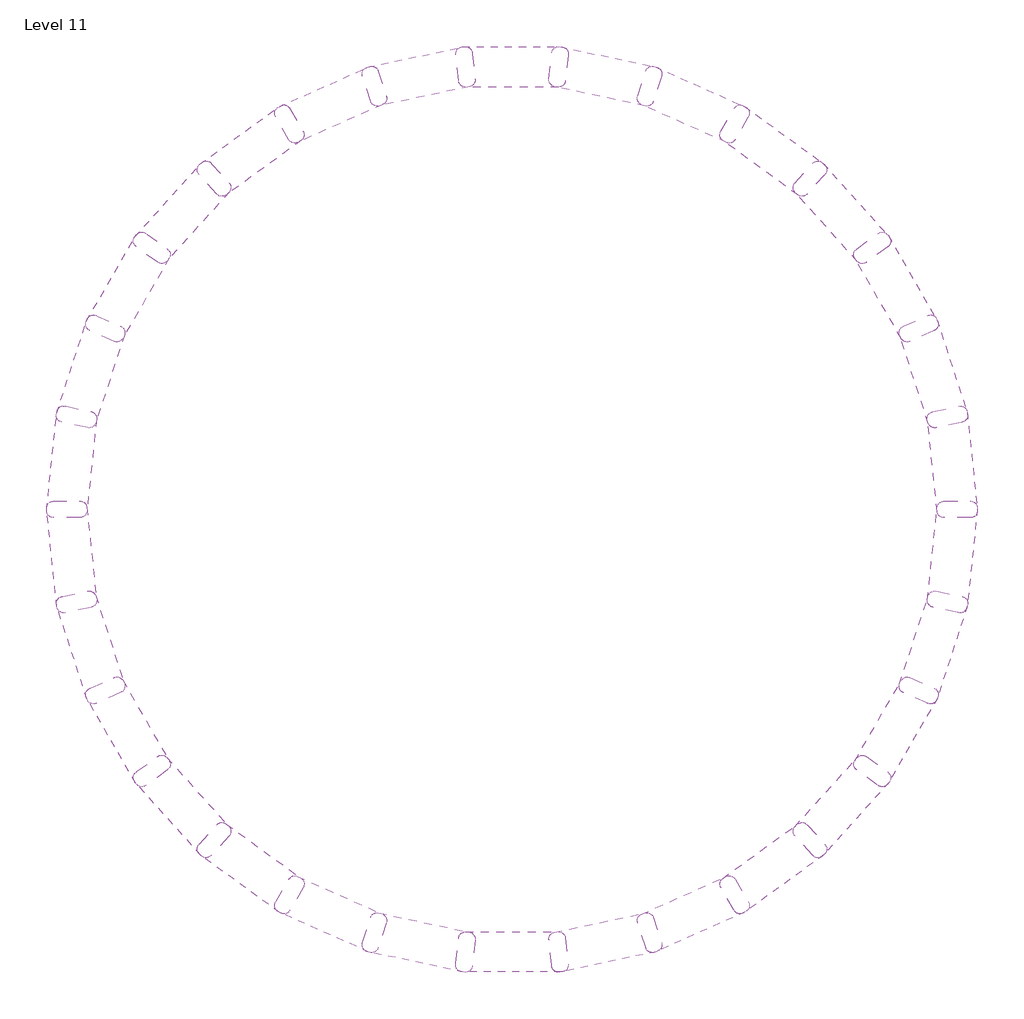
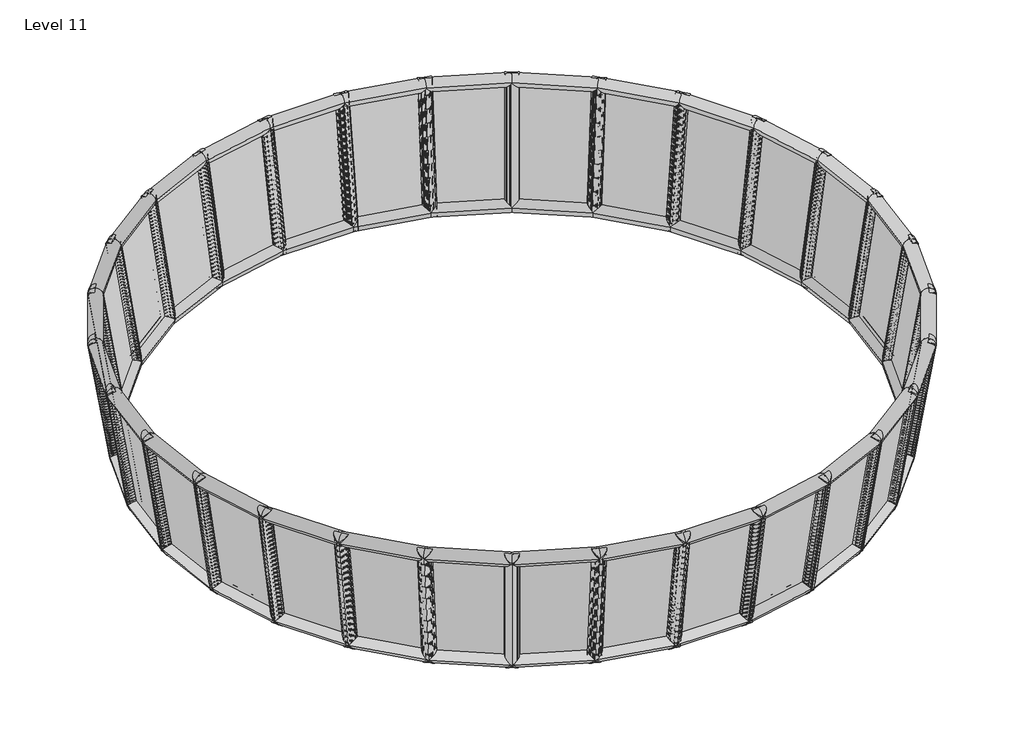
# One storey: 30 plates.
"""IFC4 building model written with IfcOpenShell, lengths in millimetres."""

from ifc_helpers import new_model, si_unit, origin, place, context, project, spatial, transform, mapped, element, save
from components import curtainpanel_curtainpanel_8103cddd

model = new_model("IFC4")

# Units and contexts
model_context = context("Model", 3, world=origin())
ifc_project = project(units=[si_unit("LENGTHUNIT", "METRE", prefix="MILLI")], contexts=[model_context])

# Site, building, storey
site = spatial("IfcSite", under=ifc_project)
building = spatial("IfcBuilding", under=site)
storey = spatial("IfcBuildingStorey", under=building, Name="Level 11", Elevation=40000.0)

# Plates
placement = place(None, origin())
curtainpanel_curtainpanel_shape = curtainpanel_curtainpanel_8103cddd(model_context)
element("IfcPlate", 1, ObjectType="CurtainPanel : CurtainPanel", at=placement, inside=storey, context=model_context, shape_type="MappedRepresentation", body=[
    mapped(curtainpanel_curtainpanel_shape, transform((12611.7205794, -2375.9869452, 51575.5731368), x_axis=(-0.136437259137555, 0.9656984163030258, -0.22093311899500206), y_axis=(-0.12722094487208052, -0.23825218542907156, -0.962834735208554), z_axis=(-0.9824457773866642, -0.10325921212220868, 0.15536354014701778))),
])
element("IfcPlate", 2, ObjectType="CurtainPanel : CurtainPanel", at=placement, inside=storey, context=model_context, shape_type="MappedRepresentation", body=[
    mapped(curtainpanel_curtainpanel_shape, transform((12764.7631899, 356.5857562, 51575.5731368), x_axis=(-0.334235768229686, 0.9162286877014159, -0.22093311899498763), y_axis=(-0.07490544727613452, -0.2594965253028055, -0.9628347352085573), z_axis=(-0.9395081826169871, -0.3052647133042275, 0.15536354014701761))),
])
element("IfcPlate", 3, ObjectType="CurtainPanel : CurtainPanel", at=placement, inside=storey, context=model_context, shape_type="MappedRepresentation", body=[
    mapped(curtainpanel_curtainpanel_shape, transform((12346.3276415, 3061.2645359, 51575.5731368), x_axis=(-0.5174265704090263, 0.8267153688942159, -0.2209331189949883), y_axis=(-0.01931622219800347, -0.26939962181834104, -0.9628347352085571), z_axis=(-0.8555095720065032, -0.49392868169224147, 0.15536354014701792))),
])
element("IfcPlate", 4, ObjectType="CurtainPanel : CurtainPanel", at=placement, inside=storey, context=model_context, shape_type="MappedRepresentation", body=[
    mapped(curtainpanel_curtainpanel_shape, transform((11374.7015757, 5619.8419526, 51575.5731368), x_axis=(-0.6780033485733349, 0.7010706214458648, -0.22093311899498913), y_axis=(0.037117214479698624, -0.26752866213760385, -0.962834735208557), z_axis=(-0.7341210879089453, -0.6610055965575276, 0.15536354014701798))),
])
element("IfcPlate", 5, ObjectType="CurtainPanel : CurtainPanel", at=placement, inside=storey, context=model_context, shape_type="MappedRepresentation", body=[
    mapped(curtainpanel_curtainpanel_shape, transform((9892.3497137, 7920.4958958, 51575.5731368), x_axis=(-0.8089481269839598, 0.5447857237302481, -0.22093311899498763), y_axis=(0.09192845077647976, -0.2539654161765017, -0.9628347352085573), z_axis=(-0.5806479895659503, -0.7991933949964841, 0.15536354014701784))),
])
element("IfcPlate", 6, ObjectType="CurtainPanel : CurtainPanel", at=placement, inside=storey, context=model_context, shape_type="MappedRepresentation", body=[
    mapped(curtainpanel_curtainpanel_shape, transform((7964.0579452, 9862.6767485, 51575.5731368), x_axis=(-0.9045379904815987, 0.36469107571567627, -0.22093311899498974), y_axis=(0.14272197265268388, -0.22930266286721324, -0.9628347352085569), z_axis=(-0.40179778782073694, -0.9024526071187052, 0.1553635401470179))),
])
element("IfcPlate", 7, ObjectType="CurtainPanel : CurtainPanel", at=placement, inside=storey, context=model_context, shape_type="MappedRepresentation", body=[
    mapped(curtainpanel_curtainpanel_shape, transform((5674.1018734, 11361.5018878, 51575.5731368), x_axis=(-0.9605952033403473, 0.16865767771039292, -0.2209331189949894), y_axis=(0.18727785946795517, -0.19461828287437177, -0.9628347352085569), z_axis=(-0.20538709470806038, -0.9662703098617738, 0.15536354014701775))),
])
element("IfcPlate", 8, ObjectType="CurtainPanel : CurtainPanel", at=placement, inside=storey, context=model_context, shape_type="MappedRepresentation", body=[
    mapped(curtainpanel_curtainpanel_shape, transform((3122.563567, 12351.4654629, 51575.5731368), x_axis=(-0.9746697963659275, -0.034746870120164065, -0.22093311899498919), y_axis=(0.2236488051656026, -0.15142815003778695, -0.9628347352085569), z_axis=(0.0, -0.987857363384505, 0.15536354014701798))),
])
element("IfcPlate", 9, ObjectType="CurtainPanel : CurtainPanel", at=placement, inside=storey, context=model_context, shape_type="MappedRepresentation", body=[
    mapped(curtainpanel_curtainpanel_shape, transform((420.9574936, 12789.3013152, 51575.5731368), x_axis=(-0.9461466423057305, -0.23663281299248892, -0.22093311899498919), y_axis=(0.2502452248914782, -0.10161988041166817, -0.9628347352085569), z_axis=(0.20538709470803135, -0.9662703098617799, 0.15536354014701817))),
])
element("IfcPlate", 10, ObjectType="CurtainPanel : CurtainPanel", at=placement, inside=storey, context=model_context, shape_type="MappedRepresentation", body=[
    mapped(curtainpanel_curtainpanel_shape, transform((-2312.6431975, 12655.8739171, 51575.5731368), x_axis=(-0.8762723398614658, -0.428176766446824, -0.22093311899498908), y_axis=(0.26590472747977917, -0.04737033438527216, -0.9628347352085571), z_axis=(0.4017977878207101, -0.9024526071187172, 0.15536354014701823))),
])
element("IfcPlate", 11, ObjectType="CurtainPanel : CurtainPanel", at=placement, inside=storey, context=model_context, shape_type="MappedRepresentation", body=[
    mapped(curtainpanel_curtainpanel_shape, transform((-7401.7657213, 10723.2671238, 51575.5731368), x_axis=(-0.6263594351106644, -0.7475710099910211, -0.22093311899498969), y_axis=(0.2621833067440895, 0.06487824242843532, -0.9628347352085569), z_axis=(0.7341210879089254, -0.6610055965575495, 0.15536354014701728))),
])
element("IfcPlate", 12, ObjectType="CurtainPanel : CurtainPanel", at=placement, inside=storey, context=model_context, shape_type="MappedRepresentation", body=[
    mapped(curtainpanel_curtainpanel_shape, transform((-11264.8484869, 6887.8103549, 51575.5731368), x_axis=(-0.2681432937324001, -0.9377034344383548, -0.2209331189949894), y_axis=(0.21312801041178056, 0.1659087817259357, -0.9628347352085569), z_axis=(0.9395081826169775, -0.3052647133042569, 0.1553635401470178))),
])
element("IfcPlate", 13, ObjectType="CurtainPanel : CurtainPanel", at=placement, inside=storey, context=model_context, shape_type="MappedRepresentation", body=[
    mapped(curtainpanel_curtainpanel_shape, transform((-4958.7670389, 11957.014686, 51575.5731368), x_axis=(-0.7681007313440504, -0.6010073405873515, -0.22093311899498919), y_axis=(0.26994291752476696, 0.00894952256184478, -0.9628347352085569), z_axis=(0.580647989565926, -0.7991933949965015, 0.15536354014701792))),
])
element("IfcPlate", 14, ObjectType="CurtainPanel : CurtainPanel", at=placement, inside=storey, context=model_context, shape_type="MappedRepresentation", body=[
    mapped(curtainpanel_curtainpanel_shape, transform((-9534.8684794, 9008.5519193, 51575.5731368), x_axis=(-0.4572432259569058, -0.8614622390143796, -0.22093311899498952), y_axis=(0.24296502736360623, 0.11797147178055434, -0.9628347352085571), z_axis=(0.8555095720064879, -0.4939286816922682, 0.15536354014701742))),
])
element("IfcPlate", 15, ObjectType="CurtainPanel : CurtainPanel", at=placement, inside=storey, context=model_context, shape_type="MappedRepresentation", body=[
    mapped(curtainpanel_curtainpanel_shape, transform((-12516.0973161, 4453.7290135, 51575.5731368), x_axis=(-0.06732421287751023, -0.9729624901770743, -0.22093311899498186), y_axis=(0.17397627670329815, 0.20659508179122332, -0.9628347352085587), z_axis=(0.9824457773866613, -0.10325921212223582, 0.15536354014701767))),
])
element("IfcPlate", 16, ObjectType="CurtainPanel : CurtainPanel", at=placement, inside=storey, context=model_context, shape_type="MappedRepresentation", body=[
    mapped(curtainpanel_curtainpanel_shape, transform((-13233.929389, 1812.6889297, 51575.5731368), x_axis=(0.13643725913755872, -0.9656984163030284, -0.22093311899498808), y_axis=(0.12722094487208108, 0.23825218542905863, -0.9628347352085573), z_axis=(0.9824457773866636, 0.10325921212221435, 0.15536354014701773))),
])
element("IfcPlate", 17, ObjectType="CurtainPanel : CurtainPanel", at=placement, inside=storey, context=model_context, shape_type="MappedRepresentation", body=[
    mapped(curtainpanel_curtainpanel_shape, transform((-13386.9719995, -919.8837717, 51575.5731368), x_axis=(0.33423576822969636, -0.9162286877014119, -0.2209331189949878), y_axis=(0.07490544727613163, 0.2594965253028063, -0.9628347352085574), z_axis=(0.9395081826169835, 0.30526471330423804, 0.15536354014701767))),
])
element("IfcPlate", 18, ObjectType="CurtainPanel : CurtainPanel", at=placement, inside=storey, context=model_context, shape_type="MappedRepresentation", body=[
    mapped(curtainpanel_curtainpanel_shape, transform((-12968.5364512, -3624.5625513, 51575.5731368), x_axis=(0.5174265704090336, -0.8267153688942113, -0.22093311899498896), y_axis=(0.019316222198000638, 0.2693996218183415, -0.9628347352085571), z_axis=(0.8555095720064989, 0.4939286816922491, 0.15536354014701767))),
])
element("IfcPlate", 19, ObjectType="CurtainPanel : CurtainPanel", at=placement, inside=storey, context=model_context, shape_type="MappedRepresentation", body=[
    mapped(curtainpanel_curtainpanel_shape, transform((-11996.9103853, -6183.139968, 51575.5731368), x_axis=(0.678003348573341, -0.7010706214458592, -0.22093311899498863), y_axis=(-0.037117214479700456, 0.26752866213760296, -0.9628347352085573), z_axis=(0.7341210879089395, 0.661005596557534, 0.15536354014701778))),
])
element("IfcPlate", 20, ObjectType="CurtainPanel : CurtainPanel", at=placement, inside=storey, context=model_context, shape_type="MappedRepresentation", body=[
    mapped(curtainpanel_curtainpanel_shape, transform((-10514.5585234, -8483.7939112, 51575.5731368), x_axis=(0.8089481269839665, -0.544785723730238, -0.2209331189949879), y_axis=(-0.0919284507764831, 0.2539654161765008, -0.9628347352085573), z_axis=(0.5806479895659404, 0.7991933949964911, 0.15536354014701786))),
])
element("IfcPlate", 21, ObjectType="CurtainPanel : CurtainPanel", at=placement, inside=storey, context=model_context, shape_type="MappedRepresentation", body=[
    mapped(curtainpanel_curtainpanel_shape, transform((-8586.2667548, -10425.9747639, 51575.5731368), x_axis=(0.9045379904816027, -0.3646910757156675, -0.2209331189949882), y_axis=(-0.14272197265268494, 0.229302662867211, -0.9628347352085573), z_axis=(0.4017977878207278, 0.9024526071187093, 0.15536354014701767))),
])
element("IfcPlate", 22, ObjectType="CurtainPanel : CurtainPanel", at=placement, inside=storey, context=model_context, shape_type="MappedRepresentation", body=[
    mapped(curtainpanel_curtainpanel_shape, transform((-6296.310683, -11924.7999032, 51575.5731368), x_axis=(0.9605952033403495, -0.16865767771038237, -0.2209331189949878), y_axis=(-0.1872778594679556, 0.19461828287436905, -0.9628347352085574), z_axis=(0.20538709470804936, 0.9662703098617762, 0.15536354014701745))),
])
element("IfcPlate", 23, ObjectType="CurtainPanel : CurtainPanel", at=placement, inside=storey, context=model_context, shape_type="MappedRepresentation", body=[
    mapped(curtainpanel_curtainpanel_shape, transform((-3744.7723766, -12914.7634783, 51575.5731368), x_axis=(0.9746697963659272, 0.034746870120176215, -0.2209331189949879), y_axis=(-0.2236488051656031, 0.1514281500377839, -0.9628347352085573), z_axis=(0.0, 0.987857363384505, 0.15536354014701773))),
])
element("IfcPlate", 24, ObjectType="CurtainPanel : CurtainPanel", at=placement, inside=storey, context=model_context, shape_type="MappedRepresentation", body=[
    mapped(curtainpanel_curtainpanel_shape, transform((-1043.1663032, -13352.5993306, 51575.5731368), x_axis=(0.946146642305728, 0.23663281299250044, -0.22093311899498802), y_axis=(-0.25024522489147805, 0.10161988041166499, -0.9628347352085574), z_axis=(-0.20538709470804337, 0.9662703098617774, 0.15536354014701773))),
])
element("IfcPlate", 25, ObjectType="CurtainPanel : CurtainPanel", at=placement, inside=storey, context=model_context, shape_type="MappedRepresentation", body=[
    mapped(curtainpanel_curtainpanel_shape, transform((1690.4343879, -13219.1719325, 51575.5731368), x_axis=(0.8762723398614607, 0.428176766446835, -0.22093311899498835), y_axis=(-0.26590472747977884, 0.04737033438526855, -0.9628347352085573), z_axis=(-0.4017977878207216, 0.9024526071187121, 0.1553635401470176))),
])
element("IfcPlate", 26, ObjectType="CurtainPanel : CurtainPanel", at=placement, inside=storey, context=model_context, shape_type="MappedRepresentation", body=[
    mapped(curtainpanel_curtainpanel_shape, transform((6779.5569117, -11286.5651393, 51575.5731368), x_axis=(0.6263594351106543, 0.7475710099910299, -0.2209331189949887), y_axis=(-0.2621833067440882, -0.06487824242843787, -0.9628347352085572), z_axis=(-0.7341210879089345, 0.6610055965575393, 0.15536354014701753))),
])
element("IfcPlate", 27, ObjectType="CurtainPanel : CurtainPanel", at=placement, inside=storey, context=model_context, shape_type="MappedRepresentation", body=[
    mapped(curtainpanel_curtainpanel_shape, transform((10642.6396772, -7451.1083704, 51575.5731368), x_axis=(0.26814329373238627, 0.9377034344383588, -0.2209331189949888), y_axis=(-0.21312801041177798, -0.1659087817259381, -0.9628347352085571), z_axis=(-0.939508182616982, 0.30526471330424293, 0.1553635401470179))),
])
element("IfcPlate", 28, ObjectType="CurtainPanel : CurtainPanel", at=placement, inside=storey, context=model_context, shape_type="MappedRepresentation", body=[
    mapped(curtainpanel_curtainpanel_shape, transform((4336.5582293, -12520.3127014, 51575.5731368), x_axis=(0.7681007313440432, 0.601007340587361, -0.2209331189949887), y_axis=(-0.2699429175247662, -0.008949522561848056, -0.9628347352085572), z_axis=(-0.5806479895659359, 0.7991933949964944, 0.15536354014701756))),
])
element("IfcPlate", 29, ObjectType="CurtainPanel : CurtainPanel", at=placement, inside=storey, context=model_context, shape_type="MappedRepresentation", body=[
    mapped(curtainpanel_curtainpanel_shape, transform((8912.6596698, -9571.8499347, 51575.5731368), x_axis=(0.45724322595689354, 0.8614622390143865, -0.2209331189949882), y_axis=(-0.2429650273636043, -0.11797147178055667, -0.9628347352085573), z_axis=(-0.8555095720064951, 0.4939286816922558, 0.15536354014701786))),
])
element("IfcPlate", 30, ObjectType="CurtainPanel : CurtainPanel", at=placement, inside=storey, context=model_context, shape_type="MappedRepresentation", body=[
    mapped(curtainpanel_curtainpanel_shape, transform((11893.8885064, -5017.027029, 51575.5731368), x_axis=(0.06732421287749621, 0.9729624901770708, -0.22093311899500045), y_axis=(-0.1739762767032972, -0.2065950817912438, -0.9628347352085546), z_axis=(-0.9824457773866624, 0.10325921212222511, 0.15536354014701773))),
])

save(model, "model.ifc")
